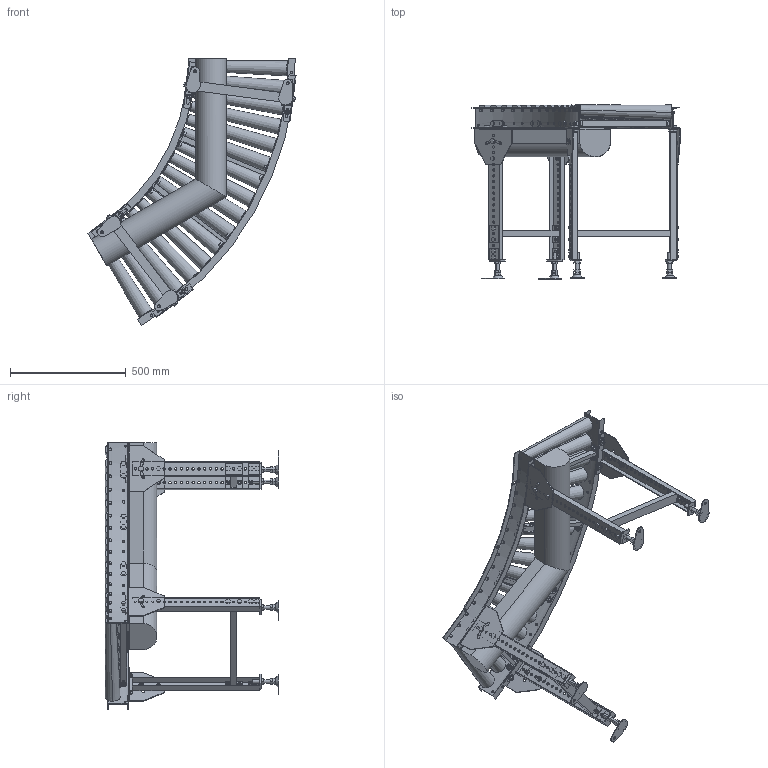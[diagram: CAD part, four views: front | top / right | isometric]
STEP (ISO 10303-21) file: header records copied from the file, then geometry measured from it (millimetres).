
FILE_DESCRIPTION (( 'STEP AP214' ), '1' );
FILE_NAME ('MCD50C9-60-400-75.STEP', '2022-08-01T06:53:39', ( '' ), ( '' ), 'SwSTEP 2.0', 'SolidWorks 2017', '' );
FILE_SCHEMA (( 'AUTOMOTIVE_DESIGN' ));
Length unit declared in the file: millimetre
Products named in the file (1): MCD50C9-60-400-75
Bounding box: 898.03 x 750 x 1151.81 mm (x, y, z)
Volume: 34911718.8 mm3; surface area: 3488570 mm2
Topology: 19 solids, 39 shells, 2615 faces, 6234 edges, 3934 vertices
Faces by surface type: plane 1839, cylinder 736, cone 40
Entity records: 112847 total; most frequent: CARTESIAN_POINT 21803, DIRECTION 13143, ORIENTED_EDGE 12468, EDGE_CURVE 6234, AXIS2_PLACEMENT_3D 4582, VECTOR 3979, LINE 3979, VERTEX_POINT 3934
